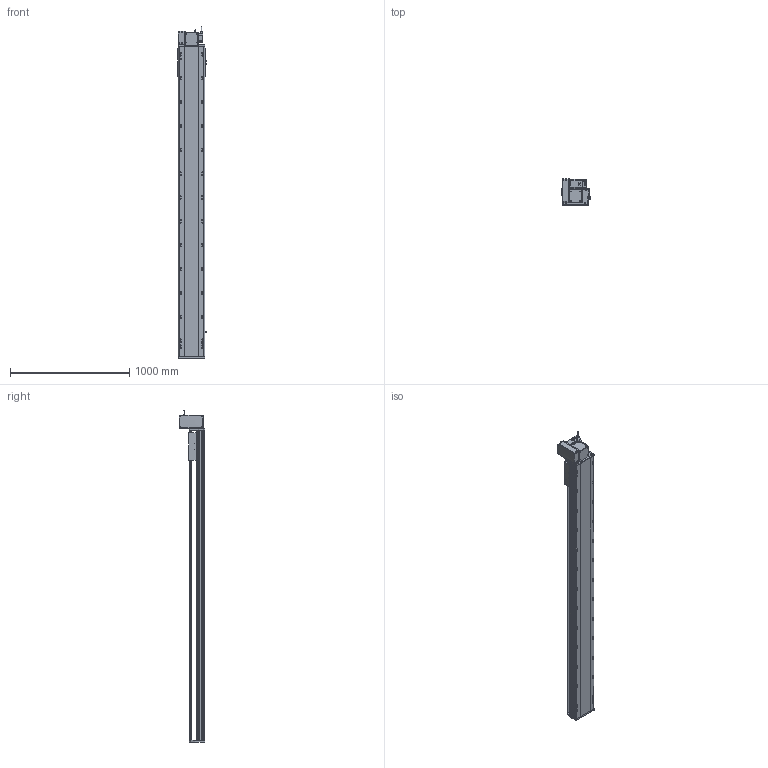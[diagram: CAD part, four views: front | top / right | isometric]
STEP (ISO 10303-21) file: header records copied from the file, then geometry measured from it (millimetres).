
FILE_DESCRIPTION (( 'STEP AP214' ), '1' );
FILE_NAME ('RTB22S-XX-2250-LW-M75-C4.STEP', '2025-12-12T06:02:19', ( '' ), ( '' ), 'SwSTEP 2.0', 'SolidWorks 2018', '' );
FILE_SCHEMA (( 'AUTOMOTIVE_DESIGN' ));
Length unit declared in the file: millimetre
Products named in the file (14): RTH22-GY-013外置感应片^RTB22S-XX-XX-LW-M75-C4; RTB22S-GY-001耜裔^RTB22S-XX-XX-LW-M75-C4; RTB22S-GY-018P^RTB22S-LW-々湍釱蚾饜_RTB22S-XX-XX-LW-M75-C4; RTB22S-GY-005P^RTB22S-LW-々湍釱蚾饜_RTB22S-XX-XX-LW-M75-C4; RTB22S-GY-017P^RTB22S-LW-々湍釱蚾饜_RTB22S-XX-XX-LW-M75-C4; RTB22S-L-011菁釱^RTB22S-XX-XX-LW-M75-C4; 750W萇儂^RTB22S-XX-XX-LW-M75-C4; RTB22S-GY-007奻裔^RTB22S-XX-XX-LW-M75-C4; RTB22S-GY-014--々湍釱^RTB22S-LW-々湍釱蚾饜_RTB22S-XX-XX-LW-M75-C4; RTB22S-L-004賑釱^RTB22S-XX-XX-LW-M75-C4; RTB22S-LW-々湍釱蚾饜^RTB22S-XX-XX-LW-M75-C4; RTB22S-XX-2250-LW-M75-C4; OMRON EE-SX672 传感器^RTB22S-XX-XX-LW-M75-C4; RTB22S-GY-008-M75--萇儂啣^RTB22S-LW-々湍釱蚾饜_RTB22S-XX-XX-LW-M75-C4
Assembly tree (16 placements, depth 3):
  RTB22S-XX-2250-LW-M75-C4
    RTB22S-L-011菁釱^RTB22S-XX-XX-LW-M75-C4
    RTB22S-GY-001耜裔^RTB22S-XX-XX-LW-M75-C4
    750W萇儂^RTB22S-XX-XX-LW-M75-C4
    RTB22S-GY-007奻裔^RTB22S-XX-XX-LW-M75-C4
    RTB22S-L-004賑釱^RTB22S-XX-XX-LW-M75-C4
    RTH22-GY-013外置感应片^RTB22S-XX-XX-LW-M75-C4
    OMRON EE-SX672 传感器^RTB22S-XX-XX-LW-M75-C4  x3
    RTB22S-LW-々湍釱蚾饜^RTB22S-XX-XX-LW-M75-C4
      RTB22S-GY-014--々湍釱^RTB22S-LW-々湍釱蚾饜_RTB22S-XX-XX-LW-M75-C4
      RTB22S-GY-017P^RTB22S-LW-々湍釱蚾饜_RTB22S-XX-XX-LW-M75-C4  x2
      RTB22S-GY-005P^RTB22S-LW-々湍釱蚾饜_RTB22S-XX-XX-LW-M75-C4
      RTB22S-GY-008-M75--萇儂啣^RTB22S-LW-々湍釱蚾饜_RTB22S-XX-XX-LW-M75-C4
      RTB22S-GY-018P^RTB22S-LW-々湍釱蚾饜_RTB22S-XX-XX-LW-M75-C4
Bounding box: 238.5 x 215.5 x 2782.2 mm (x, y, z)
Volume: 35847626 mm3; surface area: 3673819.7 mm2
Topology: 15 solids, 15 shells, 2091 faces, 5686 edges, 3632 vertices
Faces by surface type: plane 927, cylinder 694, bspline 296, cone 162, sphere 8, torus 4
Entity records: 56716 total; most frequent: CARTESIAN_POINT 16060, ORIENTED_EDGE 8112, DIRECTION 7910, EDGE_CURVE 4056, AXIS2_PLACEMENT_3D 2830, VERTEX_POINT 2636, LINE 2250, VECTOR 2250
